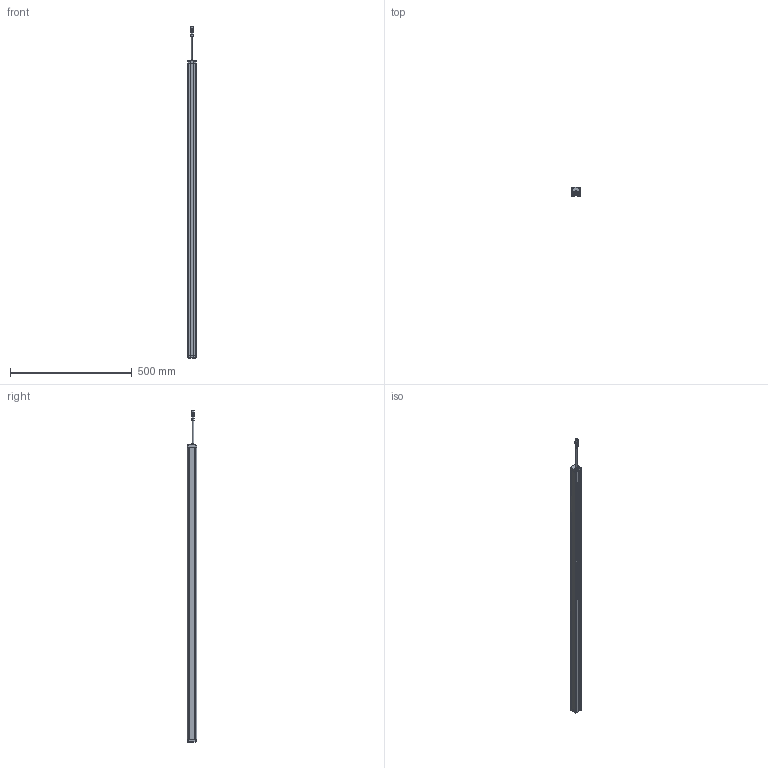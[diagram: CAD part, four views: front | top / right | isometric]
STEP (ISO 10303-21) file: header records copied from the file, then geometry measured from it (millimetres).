
FILE_DESCRIPTION((''),'2;1');
FILE_NAME('PRT0030','2026-03-31T13:35:42',('Administrator'),(''),'CREO PARAMETRIC BY PTC INC, 2016510','CREO PARAMETRIC BY PTC INC, 2016510','');
FILE_SCHEMA(('AUTOMOTIVE_DESIGN { 1 0 10303 214 1 1 1 1 }'));
Length unit declared in the file: millimetre
Products named in the file (1): PRT0030
Bounding box: 33 x 38 x 1361.9 mm (x, y, z)
Surface area: 267658.5 mm2 (no closed solid volume)
Topology: 0 solids, 12 shells, 815 faces, 2150 edges, 1354 vertices
Faces by surface type: plane 384, cylinder 235, extrusion 88, sphere 40, torus 36, cone 28, bspline 4
Entity records: 31976 total; most frequent: CARTESIAN_POINT 6045, ORIENTED_EDGE 4196, DIRECTION 3968, EDGE_CURVE 2098, VERTEX_POINT 1354, AXIS2_PLACEMENT_3D 1349, VECTOR 1270, LINE 1182
